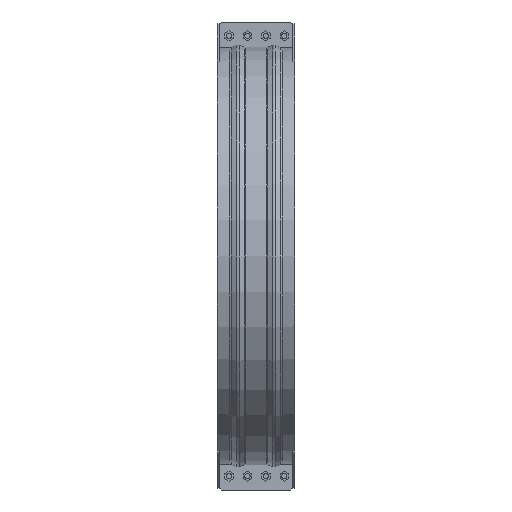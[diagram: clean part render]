
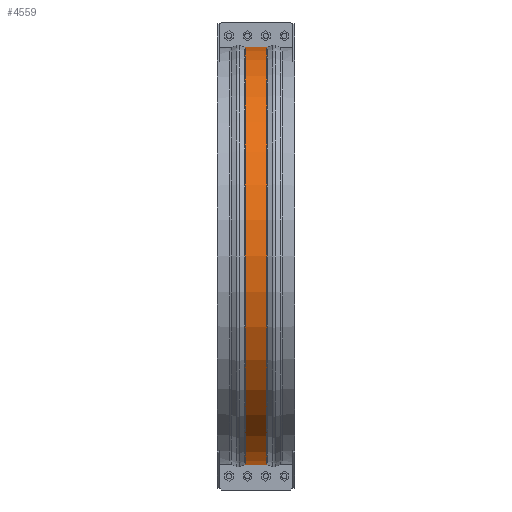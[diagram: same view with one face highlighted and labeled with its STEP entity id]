
A CAD part, front view. The second image highlights one B-rep face of the part: STEP entity #4559.
In plain terms, the highlighted cylindrical face has radius 1006.78 mm (diameter 2013.55 mm), a partial arc.
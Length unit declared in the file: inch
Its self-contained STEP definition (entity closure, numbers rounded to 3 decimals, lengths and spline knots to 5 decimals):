
#414=FACE_OUTER_BOUND('',#671,.T.);
#671=EDGE_LOOP('',(#3465,#3466,#3467,#3468));
#1036=LINE('',#7017,#1485);
#1044=LINE('',#7149,#1493);
#1485=VECTOR('',#5630,0.3937);
#1493=VECTOR('',#5690,0.3937);
#1771=CIRCLE('',#4875,39.63689);
#1773=CIRCLE('',#4879,39.63689);
#2060=VERTEX_POINT('',#7009);
#2061=VERTEX_POINT('',#7016);
#2076=VERTEX_POINT('',#7134);
#2078=VERTEX_POINT('',#7147);
#2565=EDGE_CURVE('',#2061,#2060,#1036,.T.);
#2590=EDGE_CURVE('',#2076,#2061,#1771,.T.);
#2594=EDGE_CURVE('',#2078,#2060,#1773,.T.);
#2595=EDGE_CURVE('',#2078,#2076,#1044,.T.);
#3465=ORIENTED_EDGE('',*,*,#2565,.T.);
#3466=ORIENTED_EDGE('',*,*,#2594,.F.);
#3467=ORIENTED_EDGE('',*,*,#2595,.T.);
#3468=ORIENTED_EDGE('',*,*,#2590,.T.);
#4182=CYLINDRICAL_SURFACE('',#4878,39.63689);
#4559=ADVANCED_FACE('',(#414),#4182,.T.);
#4875=AXIS2_PLACEMENT_3D('',#7135,#5679,#5680);
#4878=AXIS2_PLACEMENT_3D('',#7146,#5686,#5687);
#4879=AXIS2_PLACEMENT_3D('',#7148,#5688,#5689);
#5630=DIRECTION('',(1.,0.,0.));
#5679=DIRECTION('center_axis',(1.,0.,0.));
#5680=DIRECTION('ref_axis',(0.,0.,-1.));
#5686=DIRECTION('center_axis',(1.,0.,0.));
#5687=DIRECTION('ref_axis',(0.,-1.,0.));
#5688=DIRECTION('center_axis',(1.,0.,0.));
#5689=DIRECTION('ref_axis',(0.,0.,-1.));
#5690=DIRECTION('',(-1.,0.,0.));
#7009=CARTESIAN_POINT('',(2.00101,-0.375,-39.63511));
#7016=CARTESIAN_POINT('',(-2.00101,-0.375,-39.63511));
#7017=CARTESIAN_POINT('',(0.,-0.375,-39.63511));
#7134=CARTESIAN_POINT('',(-2.00101,-0.375,39.63511));
#7135=CARTESIAN_POINT('Origin',(-2.00101,0.,0.));
#7146=CARTESIAN_POINT('Origin',(0.,0.,0.));
#7147=CARTESIAN_POINT('',(2.00101,-0.375,39.63511));
#7148=CARTESIAN_POINT('Origin',(2.00101,0.,0.));
#7149=CARTESIAN_POINT('',(0.,-0.375,39.63511));
